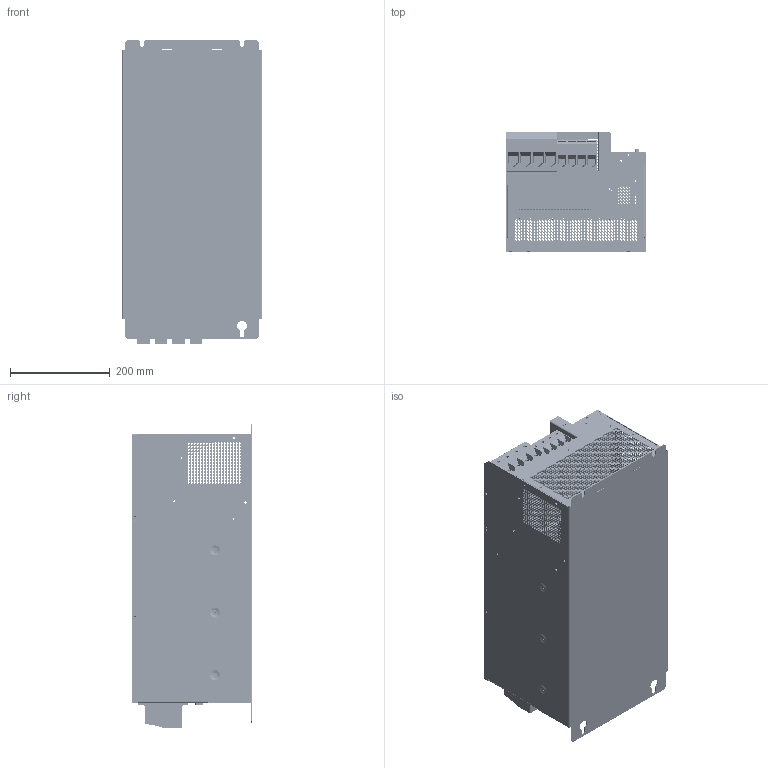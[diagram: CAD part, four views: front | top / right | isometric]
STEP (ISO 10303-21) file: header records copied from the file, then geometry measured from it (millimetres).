
FILE_DESCRIPTION (( 'STEP AP214' ), '1' );
FILE_NAME ('c-line BG7 Wandmontage.STEP', '2013-08-27T12:48:09', ( '' ), ( '' ), 'SwSTEP 2.0', 'SolidWorks 2012', '' );
FILE_SCHEMA (( 'AUTOMOTIVE_DESIGN' ));
Length unit declared in the file: millimetre
Products named in the file (23): Servo one BG6_BG6A NT-klemmen; Stecker 2pol; Steuerprint CDE; 062-03948 HOCHSTR.-DURCHF. HDFK 95-F-VP Teil 1; 062-04157 HOCHSTR.-DURCHF. HDFK 95 PE; 062-04157 HOCHSTR.-DURCHF. HDFK 95 PE Teil 1; 062-04157 HOCHSTR.-DURCHF. HDFK 95 PE Teil 2; 183_-01646-; 062-03944 HOCHSTROMKLEMME UKH50; 062-01331 HOCHSTROMKLEMME UKH95; 062-01349 SCHUTZLEITERKLEMME USLKG 95; Schutzleiterklemme USLKG 95 Teil2; Schutzleiterklemme USLKG 95 Teil1; 183_-01756A; 183_-01580-; Kühlrippe 354mm; U_Blech 357; Alustift 4x354; 183_-01803-; 183_-01775-; 183_-01776-; c-line BG7 Wandmontage
Assembly tree (52 placements, depth 4):
  c-line BG7 Wandmontage
    183_-01776-
    183_-01775-
    183_-01803-
    183_-01580-
      183_-01580-
      Kühlrippe 354mm  x23
        Alustift 4x354
        U_Blech 357
    183_-01756A
    062-01349 SCHUTZLEITERKLEMME USLKG 95
      Schutzleiterklemme USLKG 95 Teil1
      Schutzleiterklemme USLKG 95 Teil2
    062-01331 HOCHSTROMKLEMME UKH95  x3
    062-03944 HOCHSTROMKLEMME UKH50  x4
    183_-01646-
    062-04157 HOCHSTR.-DURCHF. HDFK 95 PE
      062-04157 HOCHSTR.-DURCHF. HDFK 95 PE Teil 2
      062-04157 HOCHSTR.-DURCHF. HDFK 95 PE Teil 1
    062-03948 HOCHSTR.-DURCHF. HDFK 95-F-VP Teil 1  x3
    Steuerprint CDE
    Servo one BG6_BG6A NT-klemmen
      Stecker 2pol  x2
Bounding box: 280 x 241 x 610 mm (x, y, z)
Volume: 5425294.9 mm3; surface area: 4719325.7 mm2
Topology: 69 solids, 69 shells, 7554 faces, 20972 edges, 13713 vertices
Faces by surface type: plane 3247, bspline 2943, cylinder 1139, cone 222, sphere 3
Entity records: 233478 total; most frequent: CARTESIAN_POINT 79501, ORIENTED_EDGE 35692, DIRECTION 20568, EDGE_CURVE 17846, VERTEX_POINT 11721, VECTOR 9948, LINE 9948, EDGE_LOOP 9765
